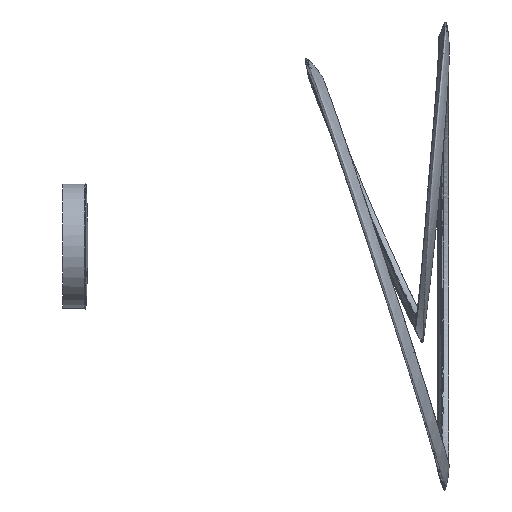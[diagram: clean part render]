
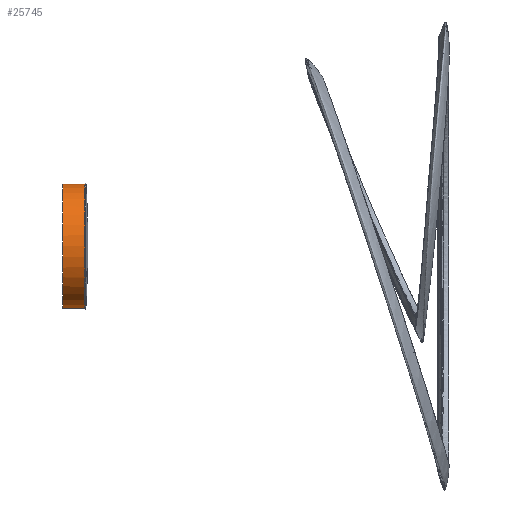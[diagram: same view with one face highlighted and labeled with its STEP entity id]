
A CAD part, left-side view. The second image highlights one B-rep face of the part: STEP entity #25745.
In plain terms, the highlighted cylindrical face has radius 110 mm (diameter 220 mm), a partial arc.
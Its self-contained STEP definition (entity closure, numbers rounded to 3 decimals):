
#6 = CARTESIAN_POINT ( 'NONE',  ( 0., -42.097, -110. ) ) ;
#13 = ORIENTED_EDGE ( 'NONE', *, *, #12274, .T. ) ;
#448 = CARTESIAN_POINT ( 'NONE',  ( 0., -42.479, 0. ) ) ;
#1634 = DIRECTION ( 'NONE',  ( 0., 0., -1. ) ) ;
#1950 = ORIENTED_EDGE ( 'NONE', *, *, #2562, .T. ) ;
#2417 = DIRECTION ( 'NONE',  ( 0., 0., -1. ) ) ;
#2562 = EDGE_CURVE ( 'NONE', #23704, #22903, #22127, .T. ) ;
#3068 = VERTEX_POINT ( 'NONE', #19853 ) ;
#3095 = ORIENTED_EDGE ( 'NONE', *, *, #10939, .T. ) ;
#3327 = CARTESIAN_POINT ( 'NONE',  ( -1.557, -42.351, 109.989 ) ) ;
#3847 = EDGE_CURVE ( 'NONE', #26625, #18179, #19645, .T. ) ;
#4202 = DIRECTION ( 'NONE',  ( 0., 0., -1. ) ) ;
#4217 = DIRECTION ( 'NONE',  ( 0., -1., 0. ) ) ;
#4422 = CARTESIAN_POINT ( 'NONE',  ( -94.489, -42.479, -56.319 ) ) ;
#5255 = B_SPLINE_CURVE_WITH_KNOTS ( 'NONE', 3,
 ( #24273, #16534, #3327, #31995 ),
 .UNSPECIFIED., .F., .F.,
 ( 4, 4 ),
 ( 0., 1. ),
 .UNSPECIFIED. ) ;
#5615 = EDGE_CURVE ( 'NONE', #26625, #23704, #14745, .T. ) ;
#5715 = CARTESIAN_POINT ( 'NONE',  ( 0., -2.479, 110. ) ) ;
#5776 = VERTEX_POINT ( 'NONE', #32481 ) ;
#6021 = CARTESIAN_POINT ( 'NONE',  ( 0., -42.479, 0. ) ) ;
#6191 = CARTESIAN_POINT ( 'NONE',  ( -96.013, -42.479, -53.679 ) ) ;
#7016 = ORIENTED_EDGE ( 'NONE', *, *, #24356, .T. ) ;
#7064 = CARTESIAN_POINT ( 'NONE',  ( -94.446, -42.097, -56.392 ) ) ;
#7307 = CARTESIAN_POINT ( 'NONE',  ( 0., -2.479, 0. ) ) ;
#7803 = ORIENTED_EDGE ( 'NONE', *, *, #13360, .F. ) ;
#9328 = FACE_OUTER_BOUND ( 'NONE', #21600, .T. ) ;
#9338 = CARTESIAN_POINT ( 'NONE',  ( 0., -42.097, 0. ) ) ;
#9581 = CARTESIAN_POINT ( 'NONE',  ( 0., -2.479, -110. ) ) ;
#9585 = CARTESIAN_POINT ( 'NONE',  ( -94.46, -42.224, -56.367 ) ) ;
#9668 = AXIS2_PLACEMENT_3D ( 'NONE', #448, #18827, #32108 ) ;
#9826 = AXIS2_PLACEMENT_3D ( 'NONE', #21884, #11090, #32175 ) ;
#10080 = ORIENTED_EDGE ( 'NONE', *, *, #23779, .T. ) ;
#10834 = CARTESIAN_POINT ( 'NONE',  ( 0., -2.479, 110. ) ) ;
#10939 = EDGE_CURVE ( 'NONE', #3068, #23911, #17982, .T. ) ;
#11090 = DIRECTION ( 'NONE',  ( 0., 1., 0. ) ) ;
#11151 = VERTEX_POINT ( 'NONE', #15749 ) ;
#11239 = CARTESIAN_POINT ( 'NONE',  ( -96.04, -42.224, -53.631 ) ) ;
#11865 = DIRECTION ( 'NONE',  ( 0., 1., 0. ) ) ;
#12094 = ORIENTED_EDGE ( 'NONE', *, *, #15339, .T. ) ;
#12274 = EDGE_CURVE ( 'NONE', #22903, #25540, #28246, .T. ) ;
#12871 = DIRECTION ( 'NONE',  ( 0., 1., 0. ) ) ;
#13194 = AXIS2_PLACEMENT_3D ( 'NONE', #7307, #25712, #4202 ) ;
#13360 = EDGE_CURVE ( 'NONE', #18179, #16268, #32973, .T. ) ;
#14020 = AXIS2_PLACEMENT_3D ( 'NONE', #33939, #12871, #2417 ) ;
#14745 = LINE ( 'NONE', #33084, #22571 ) ;
#14912 = CARTESIAN_POINT ( 'NONE',  ( 0., -42.479, 110. ) ) ;
#15339 = EDGE_CURVE ( 'NONE', #5776, #3068, #22093, .T. ) ;
#15749 = CARTESIAN_POINT ( 'NONE',  ( -1.529, -42.479, 109.989 ) ) ;
#16268 = VERTEX_POINT ( 'NONE', #14912 ) ;
#16282 = DIRECTION ( 'NONE',  ( 0., -1., 0. ) ) ;
#16488 = DIRECTION ( 'NONE',  ( 0., 0., -1. ) ) ;
#16534 = CARTESIAN_POINT ( 'NONE',  ( -1.585, -42.224, 109.989 ) ) ;
#16828 = EDGE_CURVE ( 'NONE', #25540, #5776, #22557, .T. ) ;
#17533 = ORIENTED_EDGE ( 'NONE', *, *, #3847, .F. ) ;
#17982 = CIRCLE ( 'NONE', #14020, 110. ) ;
#18179 = VERTEX_POINT ( 'NONE', #10834 ) ;
#18507 = CARTESIAN_POINT ( 'NONE',  ( -1.614, -42.097, 109.988 ) ) ;
#18827 = DIRECTION ( 'NONE',  ( 0., 1., 0. ) ) ;
#19108 = ORIENTED_EDGE ( 'NONE', *, *, #16828, .T. ) ;
#19645 = CIRCLE ( 'NONE', #9826, 110. ) ;
#19853 = CARTESIAN_POINT ( 'NONE',  ( -96.054, -42.097, -53.607 ) ) ;
#20093 = ORIENTED_EDGE ( 'NONE', *, *, #5615, .T. ) ;
#20912 = CARTESIAN_POINT ( 'NONE',  ( -94.446, -42.097, -56.392 ) ) ;
#21600 = EDGE_LOOP ( 'NONE', ( #7803, #17533, #20093, #1950, #13, #19108, #12094, #3095, #7016, #10080 ) ) ;
#21884 = CARTESIAN_POINT ( 'NONE',  ( 0., -2.479, 0. ) ) ;
#22093 = B_SPLINE_CURVE_WITH_KNOTS ( 'NONE', 3,
 ( #6191, #24603, #11239, #29668 ),
 .UNSPECIFIED., .F., .F.,
 ( 4, 4 ),
 ( 0., 0. ),
 .UNSPECIFIED. ) ;
#22127 = CIRCLE ( 'NONE', #27437, 110. ) ;
#22557 = CIRCLE ( 'NONE', #28624, 110. ) ;
#22571 = VECTOR ( 'NONE', #4217, 1000. ) ;
#22580 = CARTESIAN_POINT ( 'NONE',  ( -94.475, -42.351, -56.343 ) ) ;
#22903 = VERTEX_POINT ( 'NONE', #20912 ) ;
#22956 = CIRCLE ( 'NONE', #9668, 110. ) ;
#23003 = CARTESIAN_POINT ( 'NONE',  ( -94.489, -42.479, -56.319 ) ) ;
#23704 = VERTEX_POINT ( 'NONE', #6 ) ;
#23779 = EDGE_CURVE ( 'NONE', #11151, #16268, #22956, .T. ) ;
#23911 = VERTEX_POINT ( 'NONE', #18507 ) ;
#24220 = DIRECTION ( 'NONE',  ( 0., 1., 0. ) ) ;
#24273 = CARTESIAN_POINT ( 'NONE',  ( -1.614, -42.097, 109.988 ) ) ;
#24356 = EDGE_CURVE ( 'NONE', #23911, #11151, #5255, .T. ) ;
#24603 = CARTESIAN_POINT ( 'NONE',  ( -96.027, -42.351, -53.655 ) ) ;
#25540 = VERTEX_POINT ( 'NONE', #23003 ) ;
#25712 = DIRECTION ( 'NONE',  ( 0., -1., 0. ) ) ;
#25745 = ADVANCED_FACE ( 'NONE', ( #9328 ), #27854, .T. ) ;
#25992 = VECTOR ( 'NONE', #16282, 1000. ) ;
#26625 = VERTEX_POINT ( 'NONE', #9581 ) ;
#27437 = AXIS2_PLACEMENT_3D ( 'NONE', #9338, #11865, #1634 ) ;
#27854 = CYLINDRICAL_SURFACE ( 'NONE', #13194, 110. ) ;
#28246 = B_SPLINE_CURVE_WITH_KNOTS ( 'NONE', 3,
 ( #7064, #9585, #22580, #4422 ),
 .UNSPECIFIED., .F., .F.,
 ( 4, 4 ),
 ( 0., 1. ),
 .UNSPECIFIED. ) ;
#28624 = AXIS2_PLACEMENT_3D ( 'NONE', #6021, #24220, #16488 ) ;
#29668 = CARTESIAN_POINT ( 'NONE',  ( -96.054, -42.097, -53.607 ) ) ;
#31995 = CARTESIAN_POINT ( 'NONE',  ( -1.529, -42.479, 109.989 ) ) ;
#32108 = DIRECTION ( 'NONE',  ( 0., 0., -1. ) ) ;
#32175 = DIRECTION ( 'NONE',  ( 0., 0., -1. ) ) ;
#32481 = CARTESIAN_POINT ( 'NONE',  ( -96.013, -42.479, -53.679 ) ) ;
#32973 = LINE ( 'NONE', #5715, #25992 ) ;
#33084 = CARTESIAN_POINT ( 'NONE',  ( 0., -2.479, -110. ) ) ;
#33939 = CARTESIAN_POINT ( 'NONE',  ( 0., -42.097, 0. ) ) ;
